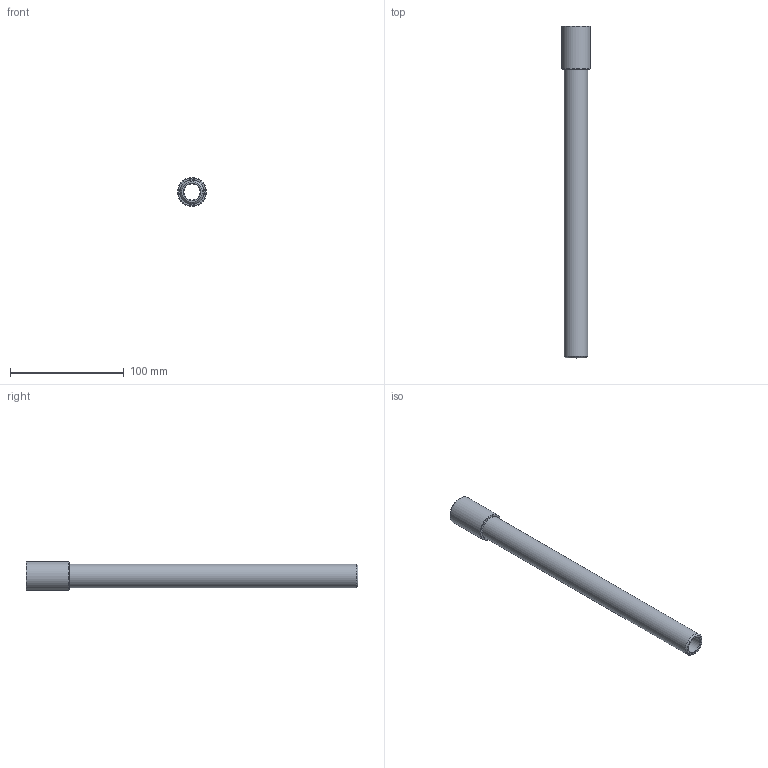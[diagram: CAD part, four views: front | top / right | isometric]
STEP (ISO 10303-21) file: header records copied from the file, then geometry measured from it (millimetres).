
FILE_DESCRIPTION(/* description */ (''),/* implementation_level */ '2;1');
FILE_NAME(/* name */ 'C:/Users/drich/Desktop/EP12X11-1_2 v1.step',/* time_stamp */ '2019-11-18T14:47:03-06:00',/* author */ (''),/* organization */ (''),/* preprocessor_version */ 'ST-DEVELOPER v18',/* originating_system */ 'Autodesk Translation Framework v8.12.0.6',/* authorisation */ '');
FILE_SCHEMA (('AUTOMOTIVE_DESIGN { 1 0 10303 214 3 1 1 }'));
Length unit declared in the file: inch
Products named in the file (2): EP12X11-1_2; EP12X4
Assembly tree (1 placements, depth 2):
  EP12X11-1_2
    EP12X4
Bounding box: 25.4 x 292.1 x 25.4 mm (x, y, z)
Volume: 56191.8 mm3; surface area: 33713.7 mm2
Topology: 1 solids, 1 shells, 23 faces, 55 edges, 37 vertices
Faces by surface type: plane 11, cone 7, cylinder 5
Full cylindrical faces by diameter (mm): 14.275 x1, 17.145 x1, 18.901 x1, 20.813 x1, 25.4 x1
Entity records: 740 total; most frequent: CARTESIAN_POINT 132, DIRECTION 124, ORIENTED_EDGE 110, EDGE_CURVE 55, AXIS2_PLACEMENT_3D 50, VERTEX_POINT 37, EDGE_LOOP 28, LINE 24
